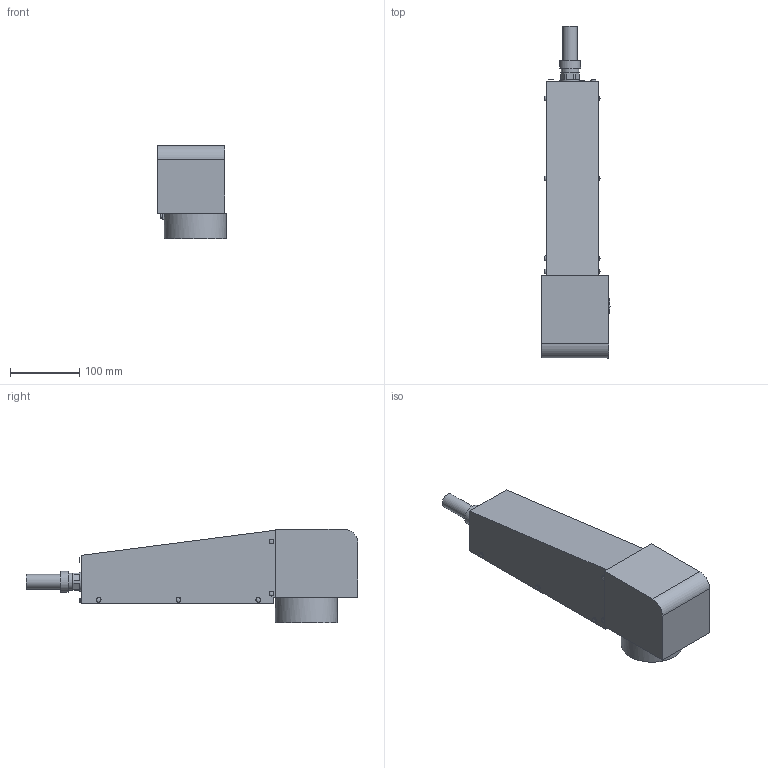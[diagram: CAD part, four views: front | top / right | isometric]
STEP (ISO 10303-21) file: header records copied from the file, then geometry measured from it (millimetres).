
FILE_DESCRIPTION(/* description */ ('','CAx-IF Rec.Pracs.---Representation and Presentation of Product Manufacturing Information (PMI)---4.0---2014-10-13'),/* implementation_level */ '2;1');
FILE_NAME(/* name */ '',/* time_stamp */ '2024-12-05T17:09:40+09:00',/* author */ (''),/* organization */ (''),/* preprocessor_version */ 'ST-DEVELOPER v20',/* originating_system */ 'Autodesk Translation Framework v13.20.0.188',/* authorisation */ '');
FILE_SCHEMA (('AP242_MANAGED_MODEL_BASED_3D_ENGINEERING_MIM_LF { 1 0 10303 442 1 1 4 }'));
Length unit declared in the file: millimetre
Products named in the file (1): スキャナー-FG5110
Bounding box: 98 x 478 x 134 mm (x, y, z)
Volume: 3195067.6 mm3; surface area: 174013.7 mm2
Topology: 1 solids, 1 shells, 97 faces, 189 edges, 123 vertices
Faces by surface type: plane 50, cylinder 17, cone 15, sphere 15
Full cylindrical faces by diameter (mm): 5 x10, 21.1 x1, 25 x1, 27 x1, 30 x1, 75.5 x1, 89 x1
Entity records: 2534 total; most frequent: DIRECTION 468, CARTESIAN_POINT 410, ORIENTED_EDGE 378, EDGE_CURVE 189, AXIS2_PLACEMENT_3D 181, EDGE_LOOP 126, VERTEX_POINT 123, LINE 106
